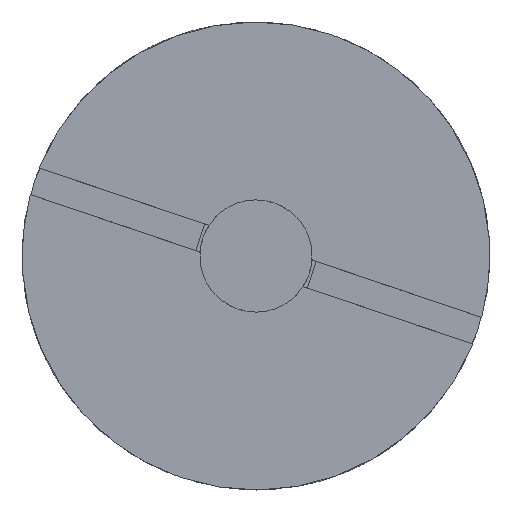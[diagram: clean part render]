
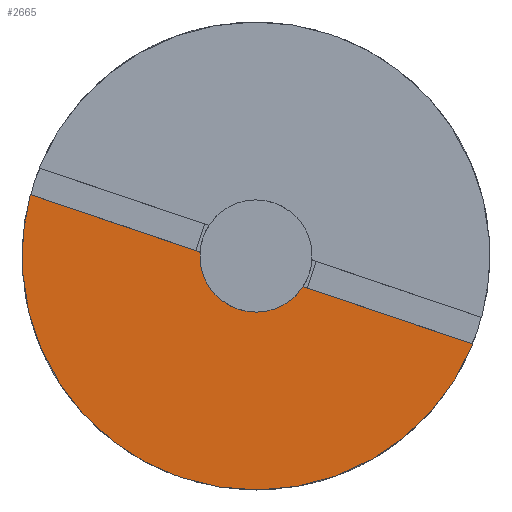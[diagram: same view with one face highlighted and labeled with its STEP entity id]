
A CAD part, front view. The second image highlights one B-rep face of the part: STEP entity #2665.
In plain terms, the highlighted planar face has unit normal (0, -1, 0).
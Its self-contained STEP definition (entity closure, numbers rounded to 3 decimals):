
#148 = EDGE_CURVE ( 'NONE', #3256, #188, #3557, .T. ) ;
#153 = ORIENTED_EDGE ( 'NONE', *, *, #770, .T. ) ;
#188 = VERTEX_POINT ( 'NONE', #1141 ) ;
#251 = DIRECTION ( 'NONE',  ( -0.947, 0., 0.32 ) ) ;
#255 = CARTESIAN_POINT ( 'NONE',  ( -29.553, -19.412, 51.367 ) ) ;
#395 = AXIS2_PLACEMENT_3D ( 'NONE', #2680, #3232, #1516 ) ;
#498 = CIRCLE ( 'NONE', #1919, 12.5 ) ;
#522 = CARTESIAN_POINT ( 'NONE',  ( -17.731, -19.412, 47.377 ) ) ;
#559 = DIRECTION ( 'NONE',  ( 0., -1., 0. ) ) ;
#566 = EDGE_CURVE ( 'NONE', #188, #3455, #498, .T. ) ;
#579 = EDGE_LOOP ( 'NONE', ( #2962, #153, #1239, #1214, #1310 ) ) ;
#606 = EDGE_CURVE ( 'NONE', #1260, #2078, #3238, .T. ) ;
#724 = DIRECTION ( 'NONE',  ( -0.947, 0., 0.32 ) ) ;
#770 = EDGE_CURVE ( 'NONE', #1260, #3256, #2976, .T. ) ;
#826 = CARTESIAN_POINT ( 'NONE',  ( -14.979, -19.412, 46.448 ) ) ;
#833 = FACE_OUTER_BOUND ( 'NONE', #579, .T. ) ;
#900 = CARTESIAN_POINT ( 'NONE',  ( -17.491, -19.412, 48.087 ) ) ;
#1090 = CARTESIAN_POINT ( 'NONE',  ( -20.483, -19.412, 48.306 ) ) ;
#1141 = CARTESIAN_POINT ( 'NONE',  ( -21.489, -19.412, 36.244 ) ) ;
#1214 = ORIENTED_EDGE ( 'NONE', *, *, #566, .T. ) ;
#1220 = VECTOR ( 'NONE', #251, 1000. ) ;
#1233 = CARTESIAN_POINT ( 'NONE',  ( -17.731, -19.412, 47.377 ) ) ;
#1239 = ORIENTED_EDGE ( 'NONE', *, *, #148, .T. ) ;
#1260 = VERTEX_POINT ( 'NONE', #1090 ) ;
#1310 = ORIENTED_EDGE ( 'NONE', *, *, #2145, .T. ) ;
#1370 = AXIS2_PLACEMENT_3D ( 'NONE', #1973, #559, #1690 ) ;
#1392 = AXIS2_PLACEMENT_3D ( 'NONE', #2972, #3554, #2673 ) ;
#1516 = DIRECTION ( 'NONE',  ( 0.32, 0., 0.947 ) ) ;
#1690 = DIRECTION ( 'NONE',  ( -1., 0., 0. ) ) ;
#1743 = CARTESIAN_POINT ( 'NONE',  ( -5.909, -19.412, 43.386 ) ) ;
#1821 = VECTOR ( 'NONE', #724, 1000. ) ;
#1838 = DIRECTION ( 'NONE',  ( 0., -1., 0. ) ) ;
#1919 = AXIS2_PLACEMENT_3D ( 'NONE', #900, #1838, #2363 ) ;
#1973 = CARTESIAN_POINT ( 'NONE',  ( -17.491, -19.412, 48.087 ) ) ;
#2078 = VERTEX_POINT ( 'NONE', #826 ) ;
#2145 = EDGE_CURVE ( 'NONE', #3455, #2078, #3101, .T. ) ;
#2363 = DIRECTION ( 'NONE',  ( 0.32, 0., 0.947 ) ) ;
#2665 = ADVANCED_FACE ( 'NONE', ( #833 ), #3107, .T. ) ;
#2673 = DIRECTION ( 'NONE',  ( 0.32, 0., 0.947 ) ) ;
#2680 = CARTESIAN_POINT ( 'NONE',  ( -17.491, -19.412, 48.087 ) ) ;
#2962 = ORIENTED_EDGE ( 'NONE', *, *, #606, .F. ) ;
#2972 = CARTESIAN_POINT ( 'NONE',  ( -17.491, -19.412, 48.087 ) ) ;
#2976 = LINE ( 'NONE', #1233, #1821 ) ;
#3101 = LINE ( 'NONE', #522, #1220 ) ;
#3107 = PLANE ( 'NONE',  #1370 ) ;
#3232 = DIRECTION ( 'NONE',  ( 0., -1., 0. ) ) ;
#3238 = CIRCLE ( 'NONE', #395, 3. ) ;
#3256 = VERTEX_POINT ( 'NONE', #255 ) ;
#3455 = VERTEX_POINT ( 'NONE', #1743 ) ;
#3554 = DIRECTION ( 'NONE',  ( 0., -1., 0. ) ) ;
#3557 = CIRCLE ( 'NONE', #1392, 12.5 ) ;
